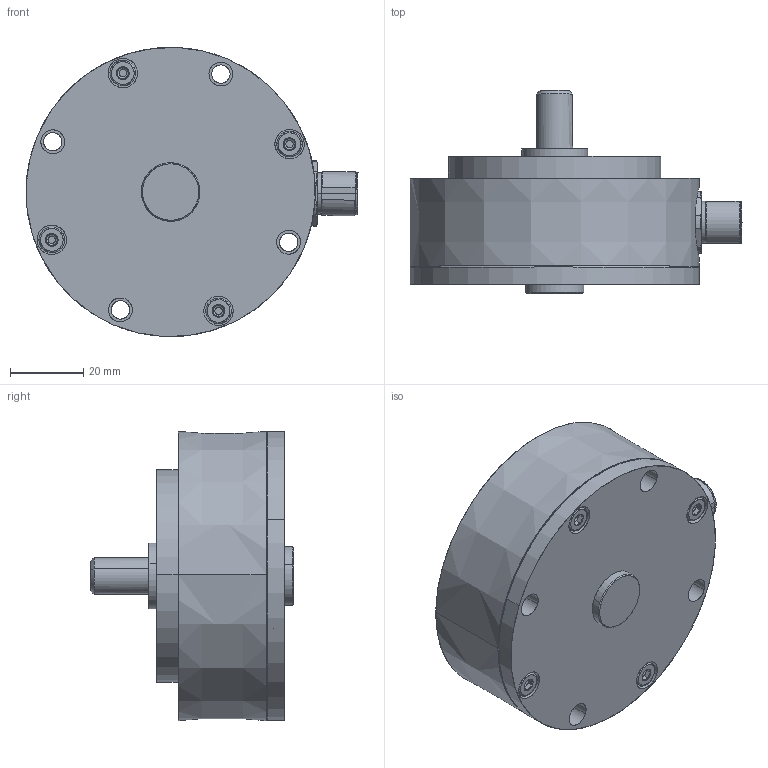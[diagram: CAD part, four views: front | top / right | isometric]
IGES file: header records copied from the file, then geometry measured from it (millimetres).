
Start section: SolidWorks IGES file using analytic representation for surfaces
Global section: file name: E:\Widmaier\3D-Daten\IPX\IPX-7943-_ _ _-_ _ _-551.IGS; native system: SolidWorks 2014; preprocessor: SolidWorks 2014; author: thiel; date: 170914.111032; units: millimetre
Bounding box: 90.65 x 55.5 x 79 mm (x, y, z)
Surface area: 24871.2 mm2 (no closed solid volume)
Topology: 0 solids, 0 shells, 221 faces, 3119 edges, 3117 vertices
Faces by surface type: revolution 139, bspline 82
